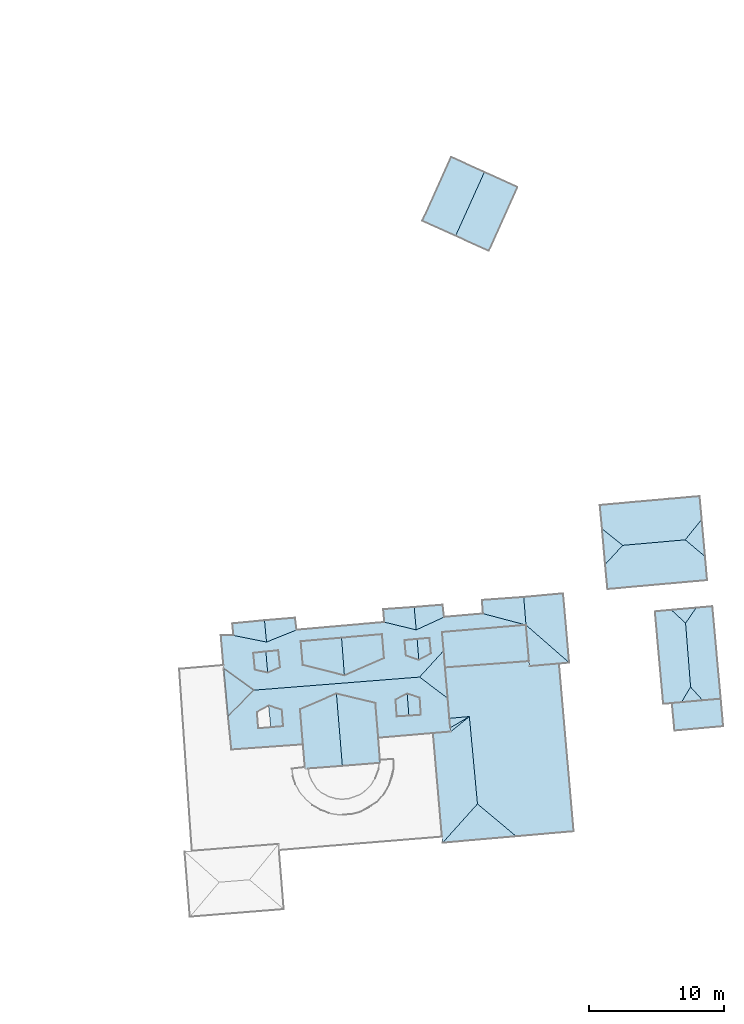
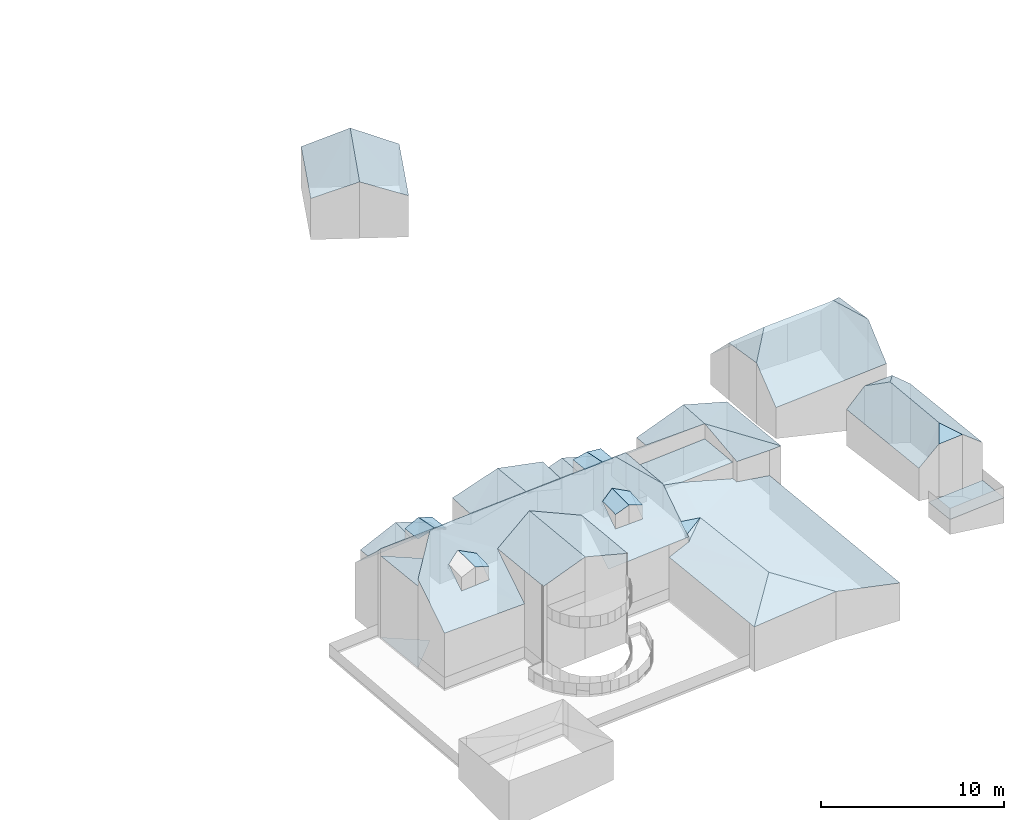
# Not in any storey, part 56 of 59: 39 roofs.
"""IFC4 building model written with IfcOpenShell, lengths in metres."""

import ifcopenshell
import ifcopenshell.guid

model = None  # the IFC model being written
_history = None  # IfcOwnerHistory: only IFC2X3 demands one
_inside = {}  # id of a spatial element -> (the spatial element, [elements in it])
_under = {}  # id of a project, library or spatial element -> (it, [spatial elements below it])
_declared = {}  # id of a project -> (the project, [libraries it declares])
_typed = {}  # id of a type object -> (the type object, [elements of that type])
_made_of = {}  # id of a material, layer set ... -> (it, [elements and type objects made of it])


def new_model(schema):
    """Start an empty IFC model of exactly this schema.

    Asked for "IFC4X3", IfcOpenShell would pick the latest addendum, in which some entities
    have other attributes; the version numbers below select the first issue.
    IFC2X3 requires an IfcOwnerHistory on every rooted entity: one is made here for all.
    """
    global model, _history
    if schema == "IFC4X3":
        model = ifcopenshell.file(schema_version=(4, 3, 0, 0))
    else:
        model = ifcopenshell.file(schema=schema)
    _inside.clear()
    _under.clear()
    _declared.clear()
    _typed.clear()
    _made_of.clear()
    _history = None
    if model.schema == "IFC2X3":
        org = make("IfcOrganization", Name="unknown")
        user = make(
            "IfcPersonAndOrganization",
            ThePerson=make("IfcPerson", FamilyName="unknown"),
            TheOrganization=org,
        )
        app = make(
            "IfcApplication",
            ApplicationDeveloper=org,
            Version="unknown",
            ApplicationFullName="unknown",
            ApplicationIdentifier="unknown",
        )
        _history = make(
            "IfcOwnerHistory",
            OwningUser=user,
            OwningApplication=app,
            ChangeAction="ADDED",
            CreationDate=0,
        )
    return model


def make(cls, **values):
    """One entity of the class cls with the attributes given. An attribute that is None is left unset."""
    return model.create_entity(
        cls, **{name: value for name, value in values.items() if value is not None}
    )


def entity(cls, *values):
    """Any entity or typed value of the class cls, its attributes in the order of the schema. None: left unset."""
    e = model.create_entity(cls)
    for i, value in enumerate(values):
        if value is not None:
            e[i] = value
    return e


def rooted(cls, **values):
    """An entity with a GlobalId (a new one), such as an element, a storey or a relation."""
    return make(cls, GlobalId=ifcopenshell.guid.new(), OwnerHistory=_history, **values)


def si_unit(unit_type, name, prefix=None):
    """IfcSIUnit, for example si_unit("LENGTHUNIT", "METRE", prefix="MILLI")."""
    return make("IfcSIUnit", UnitType=unit_type, Prefix=prefix, Name=name)


def converted_unit(unit_type, name, factor, base, dimensions=None, offset=None):
    """IfcConversionBasedUnit, such as the inch: factor (a typed value) times the base unit."""
    return make(
        "IfcConversionBasedUnit"
        if offset is None
        else "IfcConversionBasedUnitWithOffset",
        ConversionOffset=offset,
        Dimensions=None
        if dimensions is None
        else entity("IfcDimensionalExponents", *dimensions),
        UnitType=unit_type,
        Name=name,
        ConversionFactor=make(
            "IfcMeasureWithUnit", ValueComponent=factor, UnitComponent=base
        ),
    )


def assignment(units):
    """IfcUnitAssignment: the units of a project."""
    return None if units is None else make("IfcUnitAssignment", Units=units)


def point(xyz):
    """IfcCartesianPoint."""
    return None if xyz is None else make("IfcCartesianPoint", Coordinates=xyz)


def direction(xyz):
    """IfcDirection."""
    return None if xyz is None else make("IfcDirection", DirectionRatios=xyz)


def frame(location, z_axis=None, x_axis=None):
    """IfcAxis2Placement3D, a coordinate frame: its origin and axes. An axis left out is left unset."""
    return make(
        "IfcAxis2Placement3D",
        Location=point(location),
        Axis=direction(z_axis),
        RefDirection=direction(x_axis),
    )


def origin():
    """The frame at (0, 0, 0) with its axes left unset."""
    return frame((0.0, 0.0, 0.0))


def place(relative_to, where):
    """IfcLocalPlacement: puts the frame where relative to a parent placement (None: the world)."""
    return make(
        "IfcLocalPlacement", PlacementRelTo=relative_to, RelativePlacement=where
    )


def context(
    kind, dimensions, precision=None, world=None, true_north=None, identifier=None
):
    """IfcGeometricRepresentationContext, for example the 3D "Model" context."""
    return make(
        "IfcGeometricRepresentationContext",
        ContextIdentifier=identifier,
        ContextType=kind,
        CoordinateSpaceDimension=dimensions,
        Precision=precision,
        WorldCoordinateSystem=world,
        TrueNorth=true_north,
    )


def subcontext(parent, identifier, kind, view, scale=None):
    """IfcGeometricRepresentationSubContext, for example "Body" below "Model"."""
    return make(
        "IfcGeometricRepresentationSubContext",
        ContextIdentifier=identifier,
        ContextType=kind,
        ParentContext=parent,
        TargetScale=scale,
        TargetView=view,
    )


def project(units=None, contexts=None):
    """IfcProject with its units and contexts."""
    return rooted(
        "IfcProject",
        Name="project",
        RepresentationContexts=contexts,
        UnitsInContext=assignment(units),
    )


def spatial(cls, under=None, at=None, **own):
    """A site, building, storey or space (cls), placed at a placement, below another one or the project."""
    s = rooted(cls, ObjectPlacement=at, **own)
    if under is not None:
        _under.setdefault(under.id(), (under, []))[1].append(s)
    return s


def faces_of(points, faces, orient=None, outer=None):
    """IfcFace entities. A face is a list of loops; a loop is a list of indices into points, from 0.

    orient and outer hold one flag for each loop. By default every Orientation is true, the
    first loop of a face is its IfcFaceOuterBound and the others are IfcFaceBound.
    """
    made = []
    for i, loops in enumerate(faces):
        bounds = []
        for j, loop in enumerate(loops):
            is_outer = j == 0 if outer is None else outer[i][j]
            bounds.append(
                make(
                    "IfcFaceOuterBound" if is_outer else "IfcFaceBound",
                    Bound=make("IfcPolyLoop", Polygon=[points[k] for k in loop]),
                    Orientation=True if orient is None else orient[i][j],
                )
            )
        made.append(make("IfcFace", Bounds=bounds))
    return made


def face_set(faces, orient=None, outer=None):
    """The faces of one IfcConnectedFaceSet. surface_model builds it on its shared points."""
    return ("IfcConnectedFaceSet", faces, orient, outer)


def surface_model(cls, points, shells):
    """IfcFaceBasedSurfaceModel or IfcShellBasedSurfaceModel (cls): surfaces that need not close."""
    shared = [point(p) for p in points]
    made = [make(c, CfsFaces=faces_of(shared, fs, o, b)) for c, fs, o, b in shells]
    if cls == "IfcFaceBasedSurfaceModel":
        return make(cls, FbsmFaces=made)
    return make(cls, SbsmBoundary=made)


def shape(context_of_items, identifier, shape_type, items):
    """IfcShapeRepresentation: the items that make up one representation, for example the "Body"."""
    return make(
        "IfcShapeRepresentation",
        ContextOfItems=context_of_items,
        RepresentationIdentifier=identifier,
        RepresentationType=shape_type,
        Items=items,
    )


def made_of(thing, what):
    """Note that an element or type object is made of a material, layer set ...; save() writes the relation."""
    if what is not None:
        _made_of.setdefault(what.id(), (what, []))[1].append(thing)
    return thing


def element(
    cls,
    number,
    at=None,
    inside=None,
    cuts=None,
    type_object=None,
    material=None,
    context=None,
    identifier="Body",
    shape_type=None,
    held_by="IfcProductDefinitionShape",
    body=None,
    shapes=None,
    **own,
):
    """One element of the class cls, such as IfcWall. Its Tag is "e" and its number.

    at: its placement. inside: the storey or other place that contains it. cuts: it is an
    opening in that element (IfcRelVoidsElement). A single representation is given by context,
    identifier, shape_type and body (its items); several are given by shapes. held_by: the class
    of the entity that holds the representations. save() writes the other relations.
    """
    e = rooted(cls, Tag="e%d" % number, ObjectPlacement=at, **own)
    if body is not None:
        shapes = [shape(context, identifier, shape_type, body)]
    if shapes is not None:
        e.Representation = make(held_by, Representations=shapes)
    if inside is not None:
        _inside.setdefault(inside.id(), (inside, []))[1].append(e)
    if cuts is not None:
        rooted(
            "IfcRelVoidsElement", RelatingBuildingElement=cuts, RelatedOpeningElement=e
        )
    if type_object is not None:
        _typed.setdefault(type_object.id(), (type_object, []))[1].append(e)
    return made_of(e, material)


def aggregate(whole, parts):
    """IfcRelAggregates: a whole, such as a stair, and the parts it consists of."""
    return rooted("IfcRelAggregates", RelatingObject=whole, RelatedObjects=parts)


def save(model, path):
    """Write the relations noted so far, then the file.

    IfcRelAggregates (storeys below a building ...), IfcRelContainedInSpatialStructure (elements
    in a storey), IfcRelDefinesByType, IfcRelAssociatesMaterial and IfcRelDeclares: one each for
    every whole, place, type object, material and project.
    """
    for whole, parts in _under.values():
        aggregate(whole, parts)
    for where, things in _inside.values():
        rooted(
            "IfcRelContainedInSpatialStructure",
            RelatedElements=things,
            RelatingStructure=where,
        )
    for kind, things in _typed.values():
        rooted("IfcRelDefinesByType", RelatedObjects=things, RelatingType=kind)
    for what, things in _made_of.values():
        rooted("IfcRelAssociatesMaterial", RelatedObjects=things, RelatingMaterial=what)
    for by, libraries in _declared.values():
        rooted("IfcRelDeclares", RelatingContext=by, RelatedDefinitions=libraries)
    model.write(path)


model = new_model("IFC4")

# Units and contexts
model_context = context("Model", 3, precision=1e-05, world=origin())
body_context = subcontext(model_context, "Body", "Model", "MODEL_VIEW")
ifc_project = project(units=[converted_unit("PLANEANGLEUNIT", "DEGREE", entity("IfcRatioMeasure", 0.0174532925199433), si_unit("PLANEANGLEUNIT", "RADIAN"), dimensions=[0, 0, 0, 0, 0, 0, 0]), si_unit("AREAUNIT", "SQUARE_METRE"), si_unit("LENGTHUNIT", "METRE")], contexts=[model_context])

# Site, building
site_placement = place(None, origin())
site = spatial("IfcSite", under=ifc_project, at=site_placement, Name="_site")
building_1_placement = place(site_placement, origin())
building_1 = spatial("IfcBuilding", under=site, at=building_1_placement, Name="_building")

# Roofs
roof_1_placement = place(building_1_placement, origin())
element("IfcRoof", 1, at=roof_1_placement, inside=building_1, Name="Roof", PredefinedType="NOTDEFINED", context=body_context, shape_type="SurfaceModel", body=[
    surface_model("IfcFaceBasedSurfaceModel", [(263.22, 108.961, 230.96), (264.45, 110.48, 229.82), (264.3, 112.18, 227.98), (262.05, 111.98, 227.99), (258.66, 111.68, 228.01), (256.92, 111.52, 228.02), (257.08, 109.77, 229.79), (258.6, 108.551, 231.05)], [face_set([[[0, 1, 2, 3, 4, 5, 6, 7]]])]),
])
roof_2_placement = place(building_1_placement, origin())
element("IfcRoof", 2, at=roof_2_placement, inside=building_1, Name="Roof", PredefinedType="NOTDEFINED", context=body_context, shape_type="SurfaceModel", body=[
    surface_model("IfcFaceBasedSurfaceModel", [(264.7, 107.721, 229.95), (264.45, 110.48, 229.82), (263.22, 108.961, 230.96)], [face_set([[[0, 1, 2]]])]),
])
roof_3_placement = place(building_1_placement, origin())
element("IfcRoof", 3, at=roof_3_placement, inside=building_1, Name="Roof", PredefinedType="NOTDEFINED", context=body_context, shape_type="SurfaceModel", body=[
    surface_model("IfcFaceBasedSurfaceModel", [(258.6, 108.551, 231.05), (257.08, 109.77, 229.79), (257.31, 107.15, 229.95)], [face_set([[[0, 1, 2]]])]),
])
roof_4_placement = place(building_1_placement, origin())
element("IfcRoof", 4, at=roof_4_placement, inside=building_1, Name="Roof", PredefinedType="NOTDEFINED", context=body_context, shape_type="SurfaceModel", body=[
    surface_model("IfcFaceBasedSurfaceModel", [(258.6, 108.551, 231.05), (257.31, 107.15, 229.95), (257.48, 105.311, 228.02), (264.85, 105.971, 227.98), (264.7, 107.721, 229.95), (263.22, 108.961, 230.96)], [face_set([[[0, 1, 2, 3, 4, 5]]])]),
])

# Building
building_2_placement = place(site_placement, origin())
building_2 = spatial("IfcBuilding", under=site, at=building_2_placement, Name="_building")

# Roofs
roof_5_placement = place(building_2_placement, origin())
element("IfcRoof", 5, at=roof_5_placement, inside=building_2, Name="Roof", PredefinedType="NOTDEFINED", context=body_context, shape_type="SurfaceModel", body=[
    surface_model("IfcFaceBasedSurfaceModel", [(263.62, 98.08, 229.24), (264.52, 97.08, 228.75), (265.86, 97.199, 227.67), (265.24, 104.039, 227.67), (264.03, 103.93, 228.72), (263.25, 102.801, 229.24)], [face_set([[[0, 1, 2, 3, 4, 5]]])]),
])
roof_6_placement = place(building_2_placement, origin())
element("IfcRoof", 6, at=roof_6_placement, inside=building_2, Name="Roof", PredefinedType="NOTDEFINED", context=body_context, shape_type="SurfaceModel", body=[
    surface_model("IfcFaceBasedSurfaceModel", [(265.86, 97.199, 225.15), (262.25, 96.881, 225.15), (262.44, 94.85, 225.15), (266.04, 95.17, 225.15)], [face_set([[[0, 1, 2, 3]]])]),
])
roof_7_placement = place(building_2_placement, origin())
element("IfcRoof", 7, at=roof_7_placement, inside=building_2, Name="Roof", PredefinedType="NOTDEFINED", context=body_context, shape_type="SurfaceModel", body=[
    surface_model("IfcFaceBasedSurfaceModel", [(263.25, 102.801, 229.24), (264.03, 103.93, 228.72), (262.2, 103.77, 228.76)], [face_set([[[0, 1, 2]]])]),
])
roof_8_placement = place(building_2_placement, origin())
element("IfcRoof", 8, at=roof_8_placement, inside=building_2, Name="Roof", PredefinedType="NOTDEFINED", context=body_context, shape_type="SurfaceModel", body=[
    surface_model("IfcFaceBasedSurfaceModel", [(262.94, 96.939, 228.74), (264.52, 97.08, 228.75), (263.62, 98.08, 229.24)], [face_set([[[0, 1, 2]]])]),
])
roof_9_placement = place(building_2_placement, origin())
element("IfcRoof", 9, at=roof_9_placement, inside=building_2, Name="Roof", PredefinedType="NOTDEFINED", context=body_context, shape_type="SurfaceModel", body=[
    surface_model("IfcFaceBasedSurfaceModel", [(263.25, 102.801, 229.24), (262.2, 103.77, 228.76), (260.99, 103.66, 227.67), (261.61, 96.82, 227.67), (262.94, 96.939, 228.74), (263.62, 98.08, 229.24)], [face_set([[[0, 1, 2, 3, 4, 5]]])]),
])

# Building
building_3_placement = place(site_placement, origin())
building_3 = spatial("IfcBuilding", under=site, at=building_3_placement, Name="_building")

# Roofs
roof_10_placement = place(building_3_placement, origin())
element("IfcRoof", 10, at=roof_10_placement, inside=building_3, Name="Roof", PredefinedType="NOTDEFINED", context=body_context, shape_type="SurfaceModel", body=[
    surface_model("IfcFaceBasedSurfaceModel", [(246.24, 131.43, 231.2), (248.7, 130.32, 230.09), (250.82, 135.029, 229.95), (248.37, 136.15, 231.2)], [face_set([[[0, 1, 2, 3]]])]),
])
roof_11_placement = place(building_3_placement, origin())
element("IfcRoof", 11, at=roof_11_placement, inside=building_3, Name="Roof", PredefinedType="NOTDEFINED", context=body_context, shape_type="SurfaceModel", body=[
    surface_model("IfcFaceBasedSurfaceModel", [(248.37, 136.15, 231.2), (245.91, 137.26, 230.14), (243.79, 132.539, 230.28), (246.24, 131.43, 231.2)], [face_set([[[0, 1, 2, 3]]])]),
])

# Building
building_4_placement = place(site_placement, origin())
building_4 = spatial("IfcBuilding", under=site, at=building_4_placement, Name="_building")

# Roofs
roof_12_placement = place(building_4_placement, origin())
element("IfcRoof", 12, at=roof_12_placement, inside=building_4, Name="Roof", PredefinedType="NOTDEFINED", context=body_context, shape_type="SurfaceModel", body=[
    surface_model("IfcFaceBasedSurfaceModel", [(247.86, 89.43, 230.02), (250.73, 87.029, 229.18), (254.98, 87.4, 228.04), (253.9, 99.801, 228.08), (251.71, 99.609, 228.54), (251.679, 99.98, 228.54), (248.3, 99.721, 229.64), (245.472, 99.51, 230.31), (245.668, 97.232, 230.28), (245.791, 95.76, 230.26), (247.26, 95.891, 229.96)], [face_set([[[0, 1, 2, 3, 4, 5, 6, 7, 8, 9, 10]]])]),
])
roof_13_placement = place(building_4_placement, origin())
element("IfcRoof", 13, at=roof_13_placement, inside=building_4, Name="Roof", PredefinedType="NOTDEFINED", context=body_context, shape_type="SurfaceModel", body=[
    surface_model("IfcFaceBasedSurfaceModel", [(243.58, 98.811, 233.55), (245.368, 100.776, 232.01), (245.25, 102.131, 230.89), (251.45, 102.66, 230.66), (248.28, 103.5, 229.76), (245.4, 103.25, 229.76), (243.33, 102.301, 230.42), (240.98, 102.869, 229.76), (234.49, 102.301, 229.76), (232.26, 101.4, 230.4), (229.82, 101.891, 229.76), (228.89, 101.891, 229.746), (229.079, 99.689, 231.802), (229.102, 99.438, 232.08), (231.3, 97.84, 233.57), (242.47, 101.529, 231.065), (243.4, 101.619, 231.048), (243.52, 100.07, 232.428), (242.58, 100.391, 232.08), (234.8, 101.449, 230.615), (237.81, 101.711, 230.587), (238.02, 98.92, 233.073), (234.95, 99.699, 232.175), (231.29, 100.59, 231.137), (232.21, 100.689, 231.112), (232.35, 99.131, 232.502), (231.41, 99.34, 232.253), (244.32, 101.699, 231.04), (244.43, 100.561, 232.055), (240.81, 101.971, 230.56), (240.96, 100.211, 232.13), (233.14, 100.779, 231.096), (233.27, 99.529, 232.212)], [face_set([[[0, 1, 2, 3, 4, 5, 6, 7, 8, 9, 10, 11, 12, 13, 14], [15, 16, 17, 18], [19, 20, 21, 22], [23, 24, 25, 26], [17, 16, 27, 28], [21, 20, 29, 30], [25, 24, 31, 32]]])]),
])
roof_14_placement = place(building_4_placement, origin())
element("IfcRoof", 14, at=roof_14_placement, inside=building_4, Name="Roof", PredefinedType="NOTDEFINED", context=body_context, shape_type="SurfaceModel", body=[
    surface_model("IfcFaceBasedSurfaceModel", [(240.32, 96.881, 231.95), (240.53, 94.311, 229.82), (244.58, 94.66, 229.83), (245.88, 94.77, 229.83), (245.85, 95.061, 230.08), (245.791, 95.76, 230.689), (245.668, 97.232, 231.97), (243.58, 98.811, 233.55), (231.3, 97.84, 233.57), (229.42, 95.902, 232.08), (229.67, 93.439, 229.876), (234.96, 93.82, 229.76), (234.75, 96.43, 231.94), (237.43, 97.58, 232.84), (232.58, 95.09, 231.063), (231.66, 95.01, 231.06), (231.56, 96.221, 232.133), (232.41, 96.699, 232.491), (242.79, 95.949, 231.07), (241.9, 95.891, 231.084), (241.81, 97.15, 232.198), (242.66, 97.58, 232.514), (233.4, 96.381, 232.139), (233.5, 95.17, 231.066), (243.6, 97.27, 232.173), (243.68, 96.01, 231.058)], [face_set([[[0, 1, 2, 3, 4, 5, 6, 7, 8, 9, 10, 11, 12, 13], [14, 15, 16, 17], [18, 19, 20, 21], [14, 17, 22, 23], [18, 21, 24, 25]]])]),
])
roof_15_placement = place(building_4_placement, origin())
element("IfcRoof", 15, at=roof_15_placement, inside=building_4, Name="Roof", PredefinedType="NOTDEFINED", context=body_context, shape_type="SurfaceModel", body=[
    surface_model("IfcFaceBasedSurfaceModel", [(247.86, 89.43, 230.02), (247.26, 95.891, 229.96), (245.85, 95.061, 229.72), (245.88, 94.77, 229.5), (244.58, 94.66, 229.0), (245.24, 87.0, 229.009), (245.28, 86.551, 229.01)], [face_set([[[0, 1, 2, 3, 4, 5, 6]]])]),
])
roof_16_placement = place(building_4_placement, origin())
element("IfcRoof", 16, at=roof_16_placement, inside=building_4, Name="Roof", PredefinedType="NOTDEFINED", context=body_context, shape_type="SurfaceModel", body=[
    surface_model("IfcFaceBasedSurfaceModel", [(248.3, 99.721, 229.64), (251.679, 99.98, 229.64), (251.45, 102.66, 229.66), (245.25, 102.131, 229.66), (245.368, 100.776, 229.66), (245.472, 99.51, 229.66)], [face_set([[[0, 1, 2, 3, 4, 5]]])]),
])
roof_17_placement = place(building_4_placement, origin())
element("IfcRoof", 17, at=roof_17_placement, inside=building_4, Name="Roof", PredefinedType="NOTDEFINED", context=body_context, shape_type="SurfaceModel", body=[
    surface_model("IfcFaceBasedSurfaceModel", [(240.651, 92.699, 231.96), (240.53, 94.311, 231.96), (240.32, 96.881, 231.95), (237.43, 97.58, 232.84), (237.87, 92.23, 232.84), (240.58, 92.451, 231.988), (240.67, 92.461, 231.96)], [face_set([[[0, 1, 2, 3, 4, 5, 6]]])]),
])
roof_18_placement = place(building_4_placement, origin())
element("IfcRoof", 18, at=roof_18_placement, inside=building_4, Name="Roof", PredefinedType="NOTDEFINED", context=body_context, shape_type="SurfaceModel", body=[
    surface_model("IfcFaceBasedSurfaceModel", [(235.35, 92.039, 232.037), (237.87, 92.23, 232.84), (237.43, 97.58, 232.84), (234.75, 96.43, 231.94), (234.96, 93.82, 231.95), (235.1, 92.15, 231.959), (235.11, 92.02, 231.96)], [face_set([[[0, 1, 2, 3, 4, 5, 6]]])]),
])
roof_19_placement = place(building_4_placement, origin())
element("IfcRoof", 19, at=roof_19_placement, inside=building_4, Name="Roof", PredefinedType="NOTDEFINED", context=body_context, shape_type="SurfaceModel", body=[
    surface_model("IfcFaceBasedSurfaceModel", [(251.45, 102.66, 230.66), (254.65, 99.869, 229.76), (254.2, 104.99, 229.76), (251.28, 104.721, 230.74)], [face_set([[[0, 1, 2, 3]]])]),
])
roof_20_placement = place(building_4_placement, origin())
element("IfcRoof", 20, at=roof_20_placement, inside=building_4, Name="Roof", PredefinedType="NOTDEFINED", context=body_context, shape_type="SurfaceModel", body=[
    surface_model("IfcFaceBasedSurfaceModel", [(245.28, 86.551, 229.01), (250.73, 87.029, 229.18), (247.86, 89.43, 230.02)], [face_set([[[0, 1, 2]]])]),
])
roof_21_placement = place(building_4_placement, origin())
element("IfcRoof", 21, at=roof_21_placement, inside=building_4, Name="Roof", PredefinedType="NOTDEFINED", context=body_context, shape_type="SurfaceModel", body=[
    surface_model("IfcFaceBasedSurfaceModel", [(238.02, 98.92, 233.073), (240.96, 100.211, 232.13), (240.81, 101.971, 232.27), (237.81, 101.711, 233.04)], [face_set([[[0, 1, 2, 3]]])]),
])
roof_22_placement = place(building_4_placement, origin())
element("IfcRoof", 22, at=roof_22_placement, inside=building_4, Name="Roof", PredefinedType="NOTDEFINED", context=body_context, shape_type="SurfaceModel", body=[
    surface_model("IfcFaceBasedSurfaceModel", [(234.8, 101.449, 232.27), (234.95, 99.699, 232.175), (238.02, 98.92, 233.073), (237.81, 101.711, 233.04)], [face_set([[[0, 1, 2, 3]]])]),
])
roof_23_placement = place(building_4_placement, origin())
element("IfcRoof", 23, at=roof_23_placement, inside=building_4, Name="Roof", PredefinedType="NOTDEFINED", context=body_context, shape_type="SurfaceModel", body=[
    surface_model("IfcFaceBasedSurfaceModel", [(251.45, 102.66, 230.66), (251.28, 104.721, 230.74), (248.2, 104.5, 229.76), (248.28, 103.5, 229.76)], [face_set([[[0, 1, 2, 3]]])]),
])
roof_24_placement = place(building_4_placement, origin())
element("IfcRoof", 24, at=roof_24_placement, inside=building_4, Name="Roof", PredefinedType="NOTDEFINED", context=body_context, shape_type="SurfaceModel", body=[
    surface_model("IfcFaceBasedSurfaceModel", [(254.65, 99.869, 229.76), (251.45, 102.66, 230.66), (251.679, 99.98, 229.984), (251.71, 99.609, 229.89), (253.9, 99.801, 229.76)], [face_set([[[0, 1, 2, 3, 4]]])]),
])
roof_25_placement = place(building_4_placement, origin())
element("IfcRoof", 25, at=roof_25_placement, inside=building_4, Name="Roof", PredefinedType="NOTDEFINED", context=body_context, shape_type="SurfaceModel", body=[
    surface_model("IfcFaceBasedSurfaceModel", [(229.42, 95.902, 231.612), (231.3, 97.84, 231.612), (229.102, 99.438, 231.612)], [face_set([[[0, 1, 2]]])]),
])
roof_26_placement = place(building_4_placement, origin())
element("IfcRoof", 26, at=roof_26_placement, inside=building_4, Name="Roof", PredefinedType="NOTDEFINED", context=body_context, shape_type="SurfaceModel", body=[
    surface_model("IfcFaceBasedSurfaceModel", [(229.42, 95.902, 226.163), (231.3, 97.84, 226.163), (229.102, 99.438, 226.163)], [face_set([[[0, 1, 2]]])]),
])
roof_27_placement = place(building_4_placement, origin())
element("IfcRoof", 27, at=roof_27_placement, inside=building_4, Name="Roof", PredefinedType="NOTDEFINED", context=body_context, shape_type="SurfaceModel", body=[
    surface_model("IfcFaceBasedSurfaceModel", [(245.668, 97.232, 231.97), (245.472, 99.51, 231.996), (245.368, 100.776, 232.01), (243.58, 98.811, 233.55)], [face_set([[[0, 1, 2, 3]]])]),
])
roof_28_placement = place(building_4_placement, origin())
element("IfcRoof", 28, at=roof_28_placement, inside=building_4, Name="Roof", PredefinedType="NOTDEFINED", context=body_context, shape_type="SurfaceModel", body=[
    surface_model("IfcFaceBasedSurfaceModel", [(243.18, 103.98, 230.47), (240.9, 103.82, 229.76), (240.98, 102.869, 229.76), (243.33, 102.301, 230.42)], [face_set([[[0, 1, 2, 3]]])]),
])
roof_29_placement = place(building_4_placement, origin())
element("IfcRoof", 29, at=roof_29_placement, inside=building_4, Name="Roof", PredefinedType="NOTDEFINED", context=body_context, shape_type="SurfaceModel", body=[
    surface_model("IfcFaceBasedSurfaceModel", [(232.11, 103.0, 230.64), (229.74, 102.77, 229.76), (229.82, 101.891, 229.76), (232.26, 101.4, 230.4)], [face_set([[[0, 1, 2, 3]]])]),
])
roof_30_placement = place(building_4_placement, origin())
element("IfcRoof", 30, at=roof_30_placement, inside=building_4, Name="Roof", PredefinedType="NOTDEFINED", context=body_context, shape_type="SurfaceModel", body=[
    surface_model("IfcFaceBasedSurfaceModel", [(234.49, 102.301, 229.76), (234.38, 103.189, 229.76), (232.11, 103.0, 230.64), (232.26, 101.4, 230.4)], [face_set([[[0, 1, 2, 3]]])]),
])
roof_31_placement = place(building_4_placement, origin())
element("IfcRoof", 31, at=roof_31_placement, inside=building_4, Name="Roof", PredefinedType="NOTDEFINED", context=body_context, shape_type="SurfaceModel", body=[
    surface_model("IfcFaceBasedSurfaceModel", [(245.4, 103.25, 229.76), (245.29, 104.15, 229.76), (243.18, 103.98, 230.47), (243.33, 102.301, 230.42)], [face_set([[[0, 1, 2, 3]]])]),
])
roof_32_placement = place(building_4_placement, origin())
element("IfcRoof", 32, at=roof_32_placement, inside=building_4, Name="Roof", PredefinedType="NOTDEFINED", context=body_context, shape_type="SurfaceModel", body=[
    surface_model("IfcFaceBasedSurfaceModel", [(232.35, 99.131, 232.502), (233.27, 99.529, 231.98), (233.14, 100.779, 231.97), (232.21, 100.689, 232.34)], [face_set([[[0, 1, 2, 3]]])]),
])
roof_33_placement = place(building_4_placement, origin())
element("IfcRoof", 33, at=roof_33_placement, inside=building_4, Name="Roof", PredefinedType="NOTDEFINED", context=body_context, shape_type="SurfaceModel", body=[
    surface_model("IfcFaceBasedSurfaceModel", [(232.58, 95.09, 232.29), (233.5, 95.17, 231.96), (233.4, 96.381, 232.139), (232.41, 96.699, 232.491)], [face_set([[[0, 1, 2, 3]]])]),
])
roof_34_placement = place(building_4_placement, origin())
element("IfcRoof", 34, at=roof_34_placement, inside=building_4, Name="Roof", PredefinedType="NOTDEFINED", context=body_context, shape_type="SurfaceModel", body=[
    surface_model("IfcFaceBasedSurfaceModel", [(242.79, 95.949, 232.32), (243.68, 96.01, 231.98), (243.6, 97.27, 232.173), (242.66, 97.58, 232.514)], [face_set([[[0, 1, 2, 3]]])]),
])
roof_35_placement = place(building_4_placement, origin())
element("IfcRoof", 35, at=roof_35_placement, inside=building_4, Name="Roof", PredefinedType="NOTDEFINED", context=body_context, shape_type="SurfaceModel", body=[
    surface_model("IfcFaceBasedSurfaceModel", [(231.29, 100.59, 231.97), (231.41, 99.34, 231.98), (232.35, 99.131, 232.502), (232.21, 100.689, 232.34)], [face_set([[[0, 1, 2, 3]]])]),
])
roof_36_placement = place(building_4_placement, origin())
element("IfcRoof", 36, at=roof_36_placement, inside=building_4, Name="Roof", PredefinedType="NOTDEFINED", context=body_context, shape_type="SurfaceModel", body=[
    surface_model("IfcFaceBasedSurfaceModel", [(242.79, 95.949, 232.32), (242.66, 97.58, 232.514), (241.81, 97.15, 232.198), (241.9, 95.891, 232.04)], [face_set([[[0, 1, 2, 3]]])]),
])
roof_37_placement = place(building_4_placement, origin())
element("IfcRoof", 37, at=roof_37_placement, inside=building_4, Name="Roof", PredefinedType="NOTDEFINED", context=body_context, shape_type="SurfaceModel", body=[
    surface_model("IfcFaceBasedSurfaceModel", [(243.52, 100.07, 232.428), (244.43, 100.561, 232.055), (244.32, 101.699, 232.08), (243.4, 101.619, 232.23)], [face_set([[[0, 1, 2, 3]]])]),
])
roof_38_placement = place(building_4_placement, origin())
element("IfcRoof", 38, at=roof_38_placement, inside=building_4, Name="Roof", PredefinedType="NOTDEFINED", context=body_context, shape_type="SurfaceModel", body=[
    surface_model("IfcFaceBasedSurfaceModel", [(242.47, 101.529, 232.09), (242.58, 100.391, 232.08), (243.52, 100.07, 232.428), (243.4, 101.619, 232.23)], [face_set([[[0, 1, 2, 3]]])]),
])
roof_39_placement = place(building_4_placement, origin())
element("IfcRoof", 39, at=roof_39_placement, inside=building_4, Name="Roof", PredefinedType="NOTDEFINED", context=body_context, shape_type="SurfaceModel", body=[
    surface_model("IfcFaceBasedSurfaceModel", [(245.791, 95.76, 230.26), (245.85, 95.061, 229.72), (247.26, 95.891, 229.96)], [face_set([[[0, 1, 2]]])]),
])

save(model, "model.ifc")
